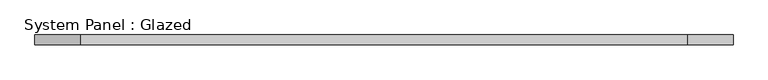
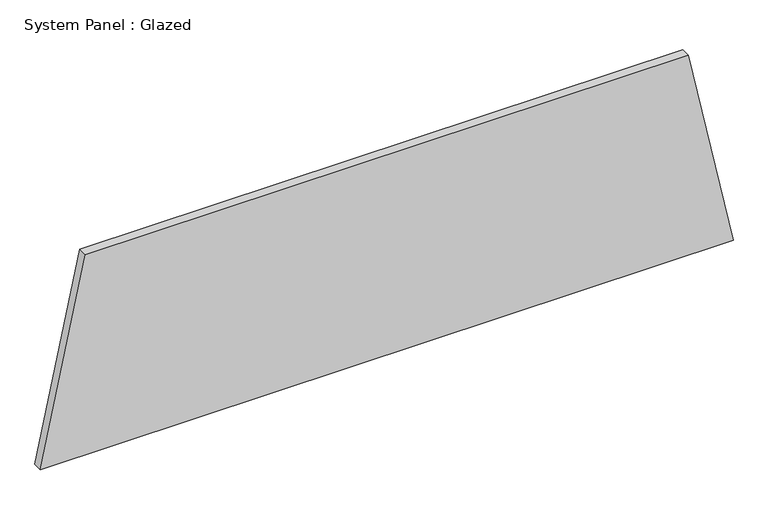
"""IFC4 building model written with IfcOpenShell, lengths in millimetres: plate geometry, System Panel : Glazed."""

from ifc_helpers import new_model, si_unit, frame, origin, place, context, project, spatial, polyline, outline, extrude, source, transform, mapped, element, save


def system_panel_glazed_e73db01d(model_context):
    return source(origin(), model_context, "Body", "SweptSolid", [
        extrude(outline(polyline([(0.0, -914.7167133), (0.0, 914.7167133), (558.1731024, 796.0472384), (558.1731024, -796.0472384), (0.0, -914.7167133)])), frame((0.0, -44.45, 0.0), z_axis=(0.0, 1.0, 0.0), x_axis=(0.0, 0.0, 1.0)), (0.0, 0.0, 1.0), 25.4),
    ])


if __name__ == "__main__":
    model = new_model("IFC4")
    model_context = context("Model", 3, world=origin())
    ifc_project = project(units=[si_unit("LENGTHUNIT", "METRE", prefix="MILLI")], contexts=[model_context])
    site = spatial("IfcSite", under=ifc_project)
    building = spatial("IfcBuilding", under=site)
    placement = place(None, origin())
    system_panel_glazed_shape = system_panel_glazed_e73db01d(model_context)
    element("IfcPlate", 1, ObjectType="System Panel : Glazed", at=placement, inside=building, context=model_context, shape_type="MappedRepresentation", body=[
        mapped(system_panel_glazed_shape, transform((0.0, 0.0, 0.0), x_axis=(1.0, 0.0, 0.0), y_axis=(0.0, 1.0, 0.0), z_axis=(0.0, 0.0, 1.0))),
    ])
    save(model, "model.ifc")
